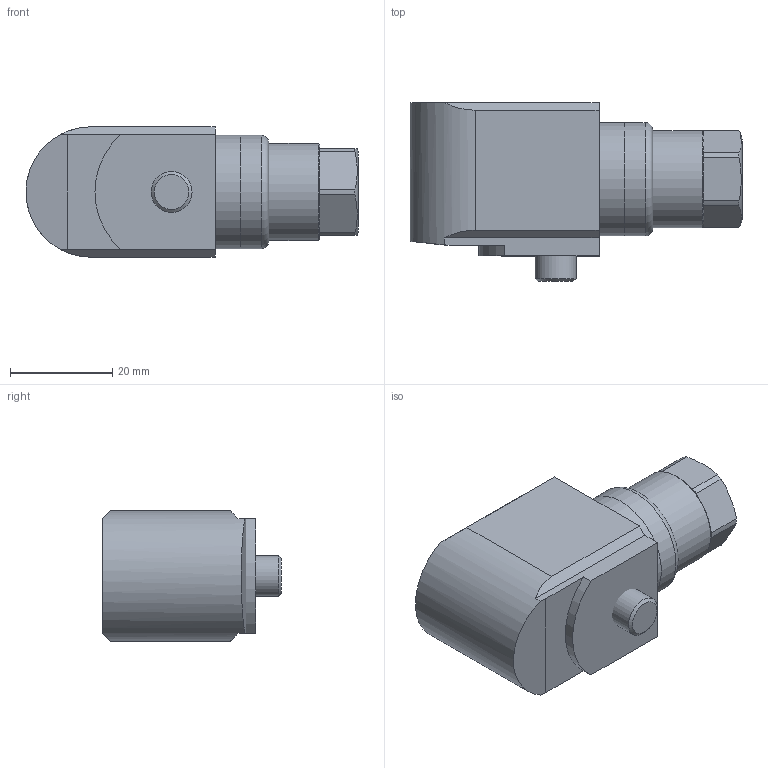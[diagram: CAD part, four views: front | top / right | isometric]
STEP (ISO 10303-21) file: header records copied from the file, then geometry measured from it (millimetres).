
FILE_DESCRIPTION(/* description */ (''),/* implementation_level */ '2;1');
FILE_NAME(/* name */ 'Z:\Engineering\Drawings\3D Library\Assemblies\Website\420 Velocity Side\HS-420SXXX0108.stp',/* time_stamp */ '2023-05-03T21:53:59+01:00',/* author */ ('Ricardo.Peneda'),/* organization */ (''),/* preprocessor_version */ 'ST-DEVELOPER v18.1',/* originating_system */ 'Autodesk Inventor 2021',/* authorisation */ '');
FILE_SCHEMA (('AUTOMOTIVE_DESIGN { 1 0 10303 214 3 1 1 }'));
Length unit declared in the file: inch
Products named in the file (1): HS-420SXXX0108_Shrinkwrap_1
Bounding box: 64.98 x 35 x 25.5 mm (x, y, z)
Volume: 22307.8 mm3; surface area: 13954 mm2
Topology: 5 solids, 5 shells, 82 faces, 208 edges, 152 vertices
Faces by surface type: plane 43, cylinder 30, cone 7, torus 2
Full cylindrical faces by diameter (mm): 6.4 x1, 6.647 x1, 8 x1, 9 x1, 11 x1, 11.2 x1, 11.647 x1, 12 x1, 13.882 x1, 15 x3, 18 x2, 19 x1, 19.95 x1, 20 x2, 20.4 x2, 22.2 x2
Entity records: 2756 total; most frequent: DIRECTION 492, CARTESIAN_POINT 473, ORIENTED_EDGE 416, EDGE_CURVE 208, AXIS2_PLACEMENT_3D 207, VERTEX_POINT 152, CIRCLE 119, EDGE_LOOP 104
